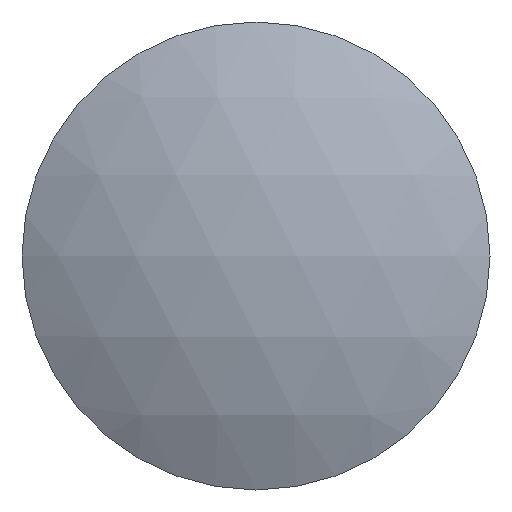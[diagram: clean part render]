
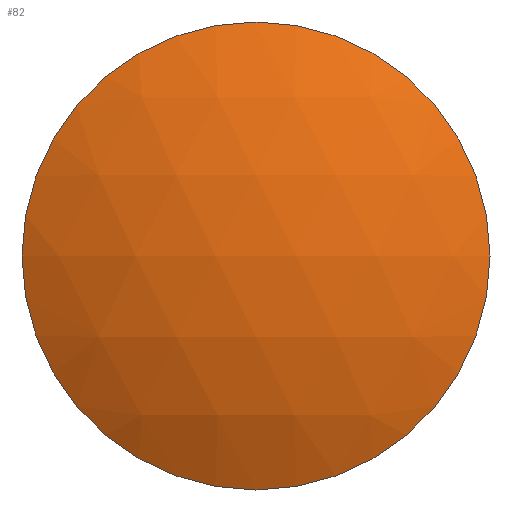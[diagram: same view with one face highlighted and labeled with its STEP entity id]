
A CAD part, front view. The second image highlights one B-rep face of the part: STEP entity #82.
In plain terms, the highlighted spherical face has radius 36.031 mm.
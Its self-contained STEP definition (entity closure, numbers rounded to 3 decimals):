
#70 = EDGE_CURVE( '', #126, #86, #160, .T. );
#82 = ADVANCED_FACE( '', ( #174 ), #175, .T. );
#86 = VERTEX_POINT( '', #180 );
#92 = EDGE_CURVE( '', #86, #126, #186, .T. );
#126 = VERTEX_POINT( '', #223 );
#160 = CIRCLE( '', #250, 16.5 );
#174 = FACE_OUTER_BOUND( '', #266, .T. );
#175 = SPHERICAL_SURFACE( '', #267, 36.031 );
#180 = CARTESIAN_POINT( '', ( 0., -25., -16.5 ) );
#186 = CIRCLE( '', #280, 16.5 );
#223 = CARTESIAN_POINT( '', ( 0., -25., 16.5 ) );
#250 = AXIS2_PLACEMENT_3D( '', #346, #347, #348 );
#266 = EDGE_LOOP( '', ( #371, #372 ) );
#267 = AXIS2_PLACEMENT_3D( '', #373, #374, #375 );
#280 = AXIS2_PLACEMENT_3D( '', #385, #386, #387 );
#346 = CARTESIAN_POINT( '', ( 0., -25., 0. ) );
#347 = DIRECTION( '', ( 0., -1., 0. ) );
#348 = DIRECTION( '', ( 0., 0., 1. ) );
#371 = ORIENTED_EDGE( '', *, *, #70, .T. );
#372 = ORIENTED_EDGE( '', *, *, #92, .T. );
#373 = CARTESIAN_POINT( '', ( 0., 7.031, 0. ) );
#374 = DIRECTION( '', ( 0., 0., 1. ) );
#375 = DIRECTION( '', ( 1., 0., 0. ) );
#385 = CARTESIAN_POINT( '', ( 0., -25., 0. ) );
#386 = DIRECTION( '', ( 0., -1., 0. ) );
#387 = DIRECTION( '', ( 0., 0., 1. ) );
